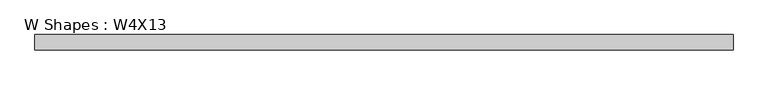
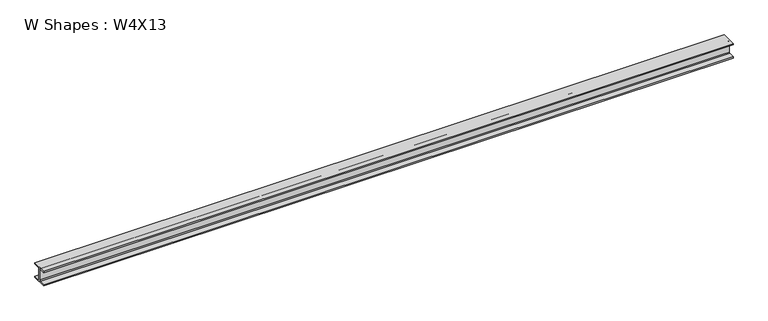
"""IFC4 building model written with IfcOpenShell, lengths in millimetres: beam geometry, W Shapes : W4X13."""

from ifc_helpers import new_model, si_unit, point, frame, frame_2d, origin, place, context, project, spatial, polyline, circle_curve, trimmed, segment, composite_curve, outline, extrude, source, transform, mapped, element, save


def w_shapes_w4x13_0eda1e25(model_context):
    return source(origin(), model_context, "Body", "SweptSolid", [
        extrude(outline(composite_curve([segment(polyline([(51.562, -44.069), (51.562, -52.832), (-51.562, -52.832), (-51.562, -44.069), (-9.906, -44.069)]), True, "CONTINUOUS"), segment(trimmed(circle_curve(frame_2d((-9.906, -37.719)), 6.35), [point((-9.906, -44.069))], [point((-3.556, -37.719))], True, "CARTESIAN"), True, "CONTINUOUS"), segment(polyline([(-3.556, -37.719), (-3.556, 37.719)]), True, "CONTINUOUS"), segment(trimmed(circle_curve(frame_2d((-9.906, 37.719)), 6.35), [point((-3.556, 37.719))], [point((-9.906, 44.069))], True, "CARTESIAN"), True, "CONTINUOUS"), segment(polyline([(-9.906, 44.069), (-51.562, 44.069), (-51.562, 52.832), (51.562, 52.832), (51.562, 44.069), (9.906, 44.069)]), True, "CONTINUOUS"), segment(trimmed(circle_curve(frame_2d((9.906, 37.719)), 6.35), [point((9.906, 44.069))], [point((3.556, 37.719))], True, "CARTESIAN"), True, "CONTINUOUS"), segment(polyline([(3.556, 37.719), (3.556, -37.719)]), True, "CONTINUOUS"), segment(trimmed(circle_curve(frame_2d((9.906, -37.719)), 6.35), [point((3.556, -37.719))], [point((9.906, -44.069))], True, "CARTESIAN"), True, "CONTINUOUS"), segment(polyline([(9.906, -44.069), (51.562, -44.069)]), True, "CONTINUOUS")], self_intersect=False)), frame((-2364.232, 0.0, 0.0), z_axis=(1.0, 0.0, 0.0), x_axis=(0.0, 1.0, 0.0)), (0.0, 0.0, 1.0), 4728.464),
    ])


if __name__ == "__main__":
    model = new_model("IFC4")
    model_context = context("Model", 3, world=origin())
    ifc_project = project(units=[si_unit("LENGTHUNIT", "METRE", prefix="MILLI")], contexts=[model_context])
    site = spatial("IfcSite", under=ifc_project)
    building = spatial("IfcBuilding", under=site)
    placement = place(None, origin())
    w_shapes_w4x13_shape = w_shapes_w4x13_0eda1e25(model_context)
    element("IfcBeam", 1, ObjectType="W Shapes : W4X13", at=placement, inside=building, context=model_context, shape_type="MappedRepresentation", body=[
        mapped(w_shapes_w4x13_shape, transform((0.0, 0.0, 0.0), x_axis=(1.0, 0.0, 0.0), y_axis=(0.0, 1.0, 0.0), z_axis=(0.0, 0.0, 1.0))),
    ])
    save(model, "model.ifc")
